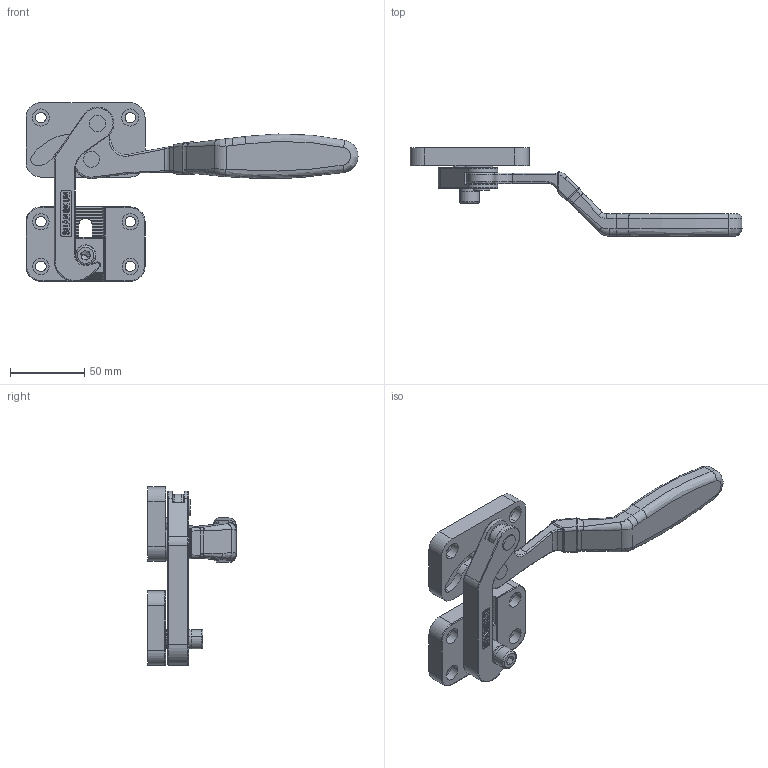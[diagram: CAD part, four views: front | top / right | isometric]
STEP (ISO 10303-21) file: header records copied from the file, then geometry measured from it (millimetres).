
FILE_DESCRIPTION (( 'STEP AP203' ), '1' );
FILE_NAME ('SK1-501RÐÂ.STEP', '2026-08-17T08:06:05', ( '' ), ( '' ), 'SwSTEP 2.0', 'SolidWorks 2019', '' );
FILE_SCHEMA (( 'CONFIG_CONTROL_DESIGN' ));
Length unit declared in the file: millimetre
Products named in the file (13): 1-501R-F5; 1-501R-F9; 1-501R-F4; hex thin nuts-grades ab-chamfered gb_GB_FASTENER_NUT_STNAB M8-N; 1-501R-F8; 1-501R-F2; SK1-501R陔; 1-501R-F6; 1-501R-F7; hexagon socket head cap screws gb_GB_FASTENER_SCREWS_HSHCS M8X25-C; spring lock washers--normal type gb_GB_FASTENER_WASHER_SW 8; 1-501R-F3; 1-501R-F1
Assembly tree (12 placements, depth 2):
  SK1-501R陔
    1-501R-F1
    1-501R-F2
    1-501R-F3
    1-501R-F4
    1-501R-F5
    1-501R-F6
    1-501R-F7
    1-501R-F8
    1-501R-F9
    hexagon socket head cap screws gb_GB_FASTENER_SCREWS_HSHCS M8X25-C
    spring lock washers--normal type gb_GB_FASTENER_WASHER_SW 8
    hex thin nuts-grades ab-chamfered gb_GB_FASTENER_NUT_STNAB M8-N
Bounding box: 223 x 59.5 x 120 mm (x, y, z)
Volume: 123029.2 mm3; surface area: 85945.3 mm2
Topology: 12 solids, 12 shells, 978 faces, 2491 edges, 1558 vertices
Faces by surface type: plane 401, cylinder 283, bspline 282, cone 12
Entity records: 42545 total; most frequent: CARTESIAN_POINT 19253, ORIENTED_EDGE 4958, DIRECTION 4095, EDGE_CURVE 2479, VERTEX_POINT 1558, AXIS2_PLACEMENT_3D 1445, VECTOR 1205, LINE 1205
